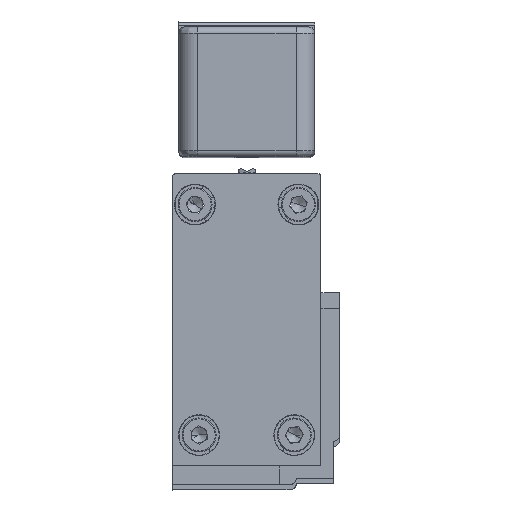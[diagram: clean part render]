
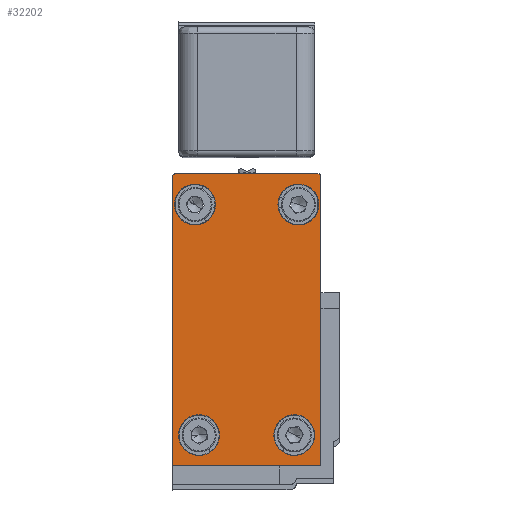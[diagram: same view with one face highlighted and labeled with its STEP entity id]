
A CAD part, top view. The second image highlights one B-rep face of the part: STEP entity #32202.
In plain terms, the highlighted planar face has unit normal (0, 0, 1).
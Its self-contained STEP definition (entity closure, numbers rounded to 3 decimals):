
#178 = LINE ( 'NONE', #14898, #15026 ) ;
#232 = CARTESIAN_POINT ( 'NONE',  ( -17.667, 21.401, 3185. ) ) ;
#297 = DIRECTION ( 'NONE',  ( -1., 0., 0. ) ) ;
#367 = CARTESIAN_POINT ( 'NONE',  ( -13.714, -15.887, 3185. ) ) ;
#542 = CARTESIAN_POINT ( 'NONE',  ( -17.514, 26.371, 3185. ) ) ;
#768 = CARTESIAN_POINT ( 'NONE',  ( 5.637, 21.401, 3185. ) ) ;
#796 = ORIENTED_EDGE ( 'NONE', *, *, #27404, .T. ) ;
#1300 = CARTESIAN_POINT ( 'NONE',  ( -11.063, 21.401, 3185. ) ) ;
#1414 = CIRCLE ( 'NONE', #16336, 3.302 ) ;
#1425 = CARTESIAN_POINT ( 'NONE',  ( 2.335, 21.401, 3185. ) ) ;
#1815 = PLANE ( 'NONE',  #4907 ) ;
#1825 = EDGE_CURVE ( 'NONE', #21059, #4942, #34566, .T. ) ;
#1938 = DIRECTION ( 'NONE',  ( -1., 0., 0. ) ) ;
#2020 = VERTEX_POINT ( 'NONE', #16108 ) ;
#2060 = CARTESIAN_POINT ( 'NONE',  ( 5.485, 25.871, 3185. ) ) ;
#2480 = CARTESIAN_POINT ( 'NONE',  ( 5.984, 25.871, 3185. ) ) ;
#2705 = EDGE_CURVE ( 'NONE', #16005, #6631, #1414, .T. ) ;
#3180 = DIRECTION ( 'NONE',  ( -1., 0., 0. ) ) ;
#4249 = DIRECTION ( 'NONE',  ( -1., 0., 0. ) ) ;
#4903 = DIRECTION ( 'NONE',  ( 0., 1., 0. ) ) ;
#4907 = AXIS2_PLACEMENT_3D ( 'NONE', #34791, #18551, #1938 ) ;
#4942 = VERTEX_POINT ( 'NONE', #542 ) ;
#5049 = FACE_OUTER_BOUND ( 'NONE', #28004, .T. ) ;
#5218 = CIRCLE ( 'NONE', #19453, 3.302 ) ;
#5254 = EDGE_LOOP ( 'NONE', ( #21405, #796 ) ) ;
#5666 = ORIENTED_EDGE ( 'NONE', *, *, #33435, .T. ) ;
#5726 = DIRECTION ( 'NONE',  ( 0., 1., 0. ) ) ;
#5746 = LINE ( 'NONE', #31523, #13154 ) ;
#5902 = FACE_BOUND ( 'NONE', #29694, .T. ) ;
#6631 = VERTEX_POINT ( 'NONE', #1300 ) ;
#6701 = ORIENTED_EDGE ( 'NONE', *, *, #29895, .T. ) ;
#6826 = DIRECTION ( 'NONE',  ( 0., 0., -1. ) ) ;
#7271 = DIRECTION ( 'NONE',  ( -1., 0., 0. ) ) ;
#7407 = CARTESIAN_POINT ( 'NONE',  ( -10.412, -15.887, 3185. ) ) ;
#7503 = CIRCLE ( 'NONE', #10315, 3.302 ) ;
#7855 = ORIENTED_EDGE ( 'NONE', *, *, #21358, .F. ) ;
#8424 = CARTESIAN_POINT ( 'NONE',  ( 5.984, -20.888, 3185. ) ) ;
#8764 = CIRCLE ( 'NONE', #29660, 3.302 ) ;
#8914 = ORIENTED_EDGE ( 'NONE', *, *, #14457, .T. ) ;
#9442 = CIRCLE ( 'NONE', #34453, 3.302 ) ;
#9693 = DIRECTION ( 'NONE',  ( 1., 0., 0. ) ) ;
#9709 = DIRECTION ( 'NONE',  ( 0., 0., -1. ) ) ;
#10002 = EDGE_CURVE ( 'NONE', #27334, #15458, #25685, .T. ) ;
#10262 = CIRCLE ( 'NONE', #20710, 3.302 ) ;
#10315 = AXIS2_PLACEMENT_3D ( 'NONE', #23372, #6826, #26066 ) ;
#10547 = EDGE_CURVE ( 'NONE', #18042, #2020, #178, .T. ) ;
#11038 = CARTESIAN_POINT ( 'NONE',  ( -1.626, -15.887, 3185. ) ) ;
#11437 = DIRECTION ( 'NONE',  ( 0., 0., -1. ) ) ;
#11501 = VECTOR ( 'NONE', #5726, 1000. ) ;
#11811 = ORIENTED_EDGE ( 'NONE', *, *, #17587, .T. ) ;
#12246 = CARTESIAN_POINT ( 'NONE',  ( 2.335, 21.401, 3185. ) ) ;
#12452 = FACE_BOUND ( 'NONE', #12667, .T. ) ;
#12667 = EDGE_LOOP ( 'NONE', ( #15868, #35343 ) ) ;
#12677 = VERTEX_POINT ( 'NONE', #11038 ) ;
#12888 = VECTOR ( 'NONE', #7271, 1000. ) ;
#13154 = VECTOR ( 'NONE', #9693, 1000. ) ;
#14457 = EDGE_CURVE ( 'NONE', #21844, #19209, #27796, .T. ) ;
#14669 = ORIENTED_EDGE ( 'NONE', *, *, #10002, .T. ) ;
#14740 = CARTESIAN_POINT ( 'NONE',  ( -13.714, -15.887, 3185. ) ) ;
#14898 = CARTESIAN_POINT ( 'NONE',  ( -18.014, 25.871, 3185. ) ) ;
#15016 = DIRECTION ( 'NONE',  ( -1., 0., 0. ) ) ;
#15026 = VECTOR ( 'NONE', #33898, 1000. ) ;
#15443 = DIRECTION ( 'NONE',  ( 0., 0., -1. ) ) ;
#15458 = VERTEX_POINT ( 'NONE', #28242 ) ;
#15546 = CIRCLE ( 'NONE', #18635, 0.5 ) ;
#15868 = ORIENTED_EDGE ( 'NONE', *, *, #31809, .T. ) ;
#16005 = VERTEX_POINT ( 'NONE', #232 ) ;
#16108 = CARTESIAN_POINT ( 'NONE',  ( -18.014, -20.888, 3185. ) ) ;
#16224 = CARTESIAN_POINT ( 'NONE',  ( -17.017, -15.887, 3185. ) ) ;
#16336 = AXIS2_PLACEMENT_3D ( 'NONE', #26122, #9709, #28834 ) ;
#16953 = DIRECTION ( 'NONE',  ( 0., 0., -1. ) ) ;
#17444 = DIRECTION ( 'NONE',  ( -1., 0., 0. ) ) ;
#17587 = EDGE_CURVE ( 'NONE', #19209, #21844, #30911, .T. ) ;
#17624 = ORIENTED_EDGE ( 'NONE', *, *, #18286, .T. ) ;
#18042 = VERTEX_POINT ( 'NONE', #24655 ) ;
#18286 = EDGE_CURVE ( 'NONE', #30123, #21059, #15546, .T. ) ;
#18551 = DIRECTION ( 'NONE',  ( 0., 0., 1. ) ) ;
#18635 = AXIS2_PLACEMENT_3D ( 'NONE', #2060, #21442, #4903 ) ;
#18806 = LINE ( 'NONE', #33003, #11501 ) ;
#19209 = VERTEX_POINT ( 'NONE', #768 ) ;
#19383 = AXIS2_PLACEMENT_3D ( 'NONE', #1425, #20807, #4249 ) ;
#19453 = AXIS2_PLACEMENT_3D ( 'NONE', #14740, #33741, #17444 ) ;
#19454 = CIRCLE ( 'NONE', #33123, 0.5 ) ;
#19757 = FACE_BOUND ( 'NONE', #5254, .T. ) ;
#19803 = DIRECTION ( 'NONE',  ( 0., 0., -1. ) ) ;
#20188 = EDGE_CURVE ( 'NONE', #15458, #30123, #18806, .T. ) ;
#20281 = CARTESIAN_POINT ( 'NONE',  ( -0.967, 21.401, 3185. ) ) ;
#20679 = AXIS2_PLACEMENT_3D ( 'NONE', #12246, #31278, #15016 ) ;
#20710 = AXIS2_PLACEMENT_3D ( 'NONE', #33239, #16953, #297 ) ;
#20801 = EDGE_LOOP ( 'NONE', ( #8914, #11811 ) ) ;
#20805 = EDGE_CURVE ( 'NONE', #23357, #23553, #5218, .T. ) ;
#20807 = DIRECTION ( 'NONE',  ( 0., 0., -1. ) ) ;
#21059 = VERTEX_POINT ( 'NONE', #23813 ) ;
#21358 = EDGE_CURVE ( 'NONE', #18042, #4942, #19454, .T. ) ;
#21405 = ORIENTED_EDGE ( 'NONE', *, *, #24024, .T. ) ;
#21442 = DIRECTION ( 'NONE',  ( 0., 0., 1. ) ) ;
#21844 = VERTEX_POINT ( 'NONE', #20281 ) ;
#21979 = ORIENTED_EDGE ( 'NONE', *, *, #10547, .T. ) ;
#22467 = ORIENTED_EDGE ( 'NONE', *, *, #20188, .T. ) ;
#23357 = VERTEX_POINT ( 'NONE', #7407 ) ;
#23372 = CARTESIAN_POINT ( 'NONE',  ( 1.676, -15.887, 3185. ) ) ;
#23553 = VERTEX_POINT ( 'NONE', #16224 ) ;
#23671 = DIRECTION ( 'NONE',  ( 0., 1., 0. ) ) ;
#23813 = CARTESIAN_POINT ( 'NONE',  ( 5.485, 26.371, 3185. ) ) ;
#24024 = EDGE_CURVE ( 'NONE', #12677, #34311, #7503, .T. ) ;
#24655 = CARTESIAN_POINT ( 'NONE',  ( -18.014, 25.871, 3185. ) ) ;
#25685 = LINE ( 'NONE', #31550, #32885 ) ;
#26066 = DIRECTION ( 'NONE',  ( -1., 0., 0. ) ) ;
#26122 = CARTESIAN_POINT ( 'NONE',  ( -14.365, 21.401, 3185. ) ) ;
#27334 = VERTEX_POINT ( 'NONE', #8424 ) ;
#27396 = ORIENTED_EDGE ( 'NONE', *, *, #1825, .T. ) ;
#27404 = EDGE_CURVE ( 'NONE', #34311, #12677, #10262, .T. ) ;
#27772 = CARTESIAN_POINT ( 'NONE',  ( -17.514, 25.871, 3185. ) ) ;
#27796 = CIRCLE ( 'NONE', #19383, 3.302 ) ;
#28004 = EDGE_LOOP ( 'NONE', ( #14669, #22467, #17624, #27396, #7855, #21979, #5666 ) ) ;
#28242 = CARTESIAN_POINT ( 'NONE',  ( 5.984, 7.11, 3185. ) ) ;
#28834 = DIRECTION ( 'NONE',  ( -1., 0., 0. ) ) ;
#29084 = CARTESIAN_POINT ( 'NONE',  ( 5.485, 26.371, 3185. ) ) ;
#29660 = AXIS2_PLACEMENT_3D ( 'NONE', #31683, #15443, #34415 ) ;
#29694 = EDGE_LOOP ( 'NONE', ( #31690, #6701 ) ) ;
#29895 = EDGE_CURVE ( 'NONE', #6631, #16005, #8764, .T. ) ;
#30123 = VERTEX_POINT ( 'NONE', #2480 ) ;
#30510 = DIRECTION ( 'NONE',  ( 0., 1., 0. ) ) ;
#30911 = CIRCLE ( 'NONE', #20679, 3.302 ) ;
#31278 = DIRECTION ( 'NONE',  ( 0., 0., -1. ) ) ;
#31523 = CARTESIAN_POINT ( 'NONE',  ( -18.014, -20.888, 3185. ) ) ;
#31550 = CARTESIAN_POINT ( 'NONE',  ( 5.984, -20.888, 3185. ) ) ;
#31683 = CARTESIAN_POINT ( 'NONE',  ( -14.365, 21.401, 3185. ) ) ;
#31690 = ORIENTED_EDGE ( 'NONE', *, *, #2705, .T. ) ;
#31809 = EDGE_CURVE ( 'NONE', #23553, #23357, #9442, .T. ) ;
#32202 = ADVANCED_FACE ( 'NONE', ( #5902, #34153, #19757, #12452, #5049 ), #1815, .T. ) ;
#32885 = VECTOR ( 'NONE', #23671, 1000. ) ;
#33003 = CARTESIAN_POINT ( 'NONE',  ( 5.984, 7.11, 3185. ) ) ;
#33123 = AXIS2_PLACEMENT_3D ( 'NONE', #27772, #11437, #30510 ) ;
#33239 = CARTESIAN_POINT ( 'NONE',  ( 1.676, -15.887, 3185. ) ) ;
#33435 = EDGE_CURVE ( 'NONE', #2020, #27334, #5746, .T. ) ;
#33741 = DIRECTION ( 'NONE',  ( 0., 0., -1. ) ) ;
#33898 = DIRECTION ( 'NONE',  ( 0., -1., 0. ) ) ;
#34153 = FACE_BOUND ( 'NONE', #20801, .T. ) ;
#34311 = VERTEX_POINT ( 'NONE', #35314 ) ;
#34415 = DIRECTION ( 'NONE',  ( -1., 0., 0. ) ) ;
#34453 = AXIS2_PLACEMENT_3D ( 'NONE', #367, #19803, #3180 ) ;
#34566 = LINE ( 'NONE', #29084, #12888 ) ;
#34791 = CARTESIAN_POINT ( 'NONE',  ( -18.014, -20.888, 3185. ) ) ;
#35314 = CARTESIAN_POINT ( 'NONE',  ( 4.978, -15.887, 3185. ) ) ;
#35343 = ORIENTED_EDGE ( 'NONE', *, *, #20805, .T. ) ;
